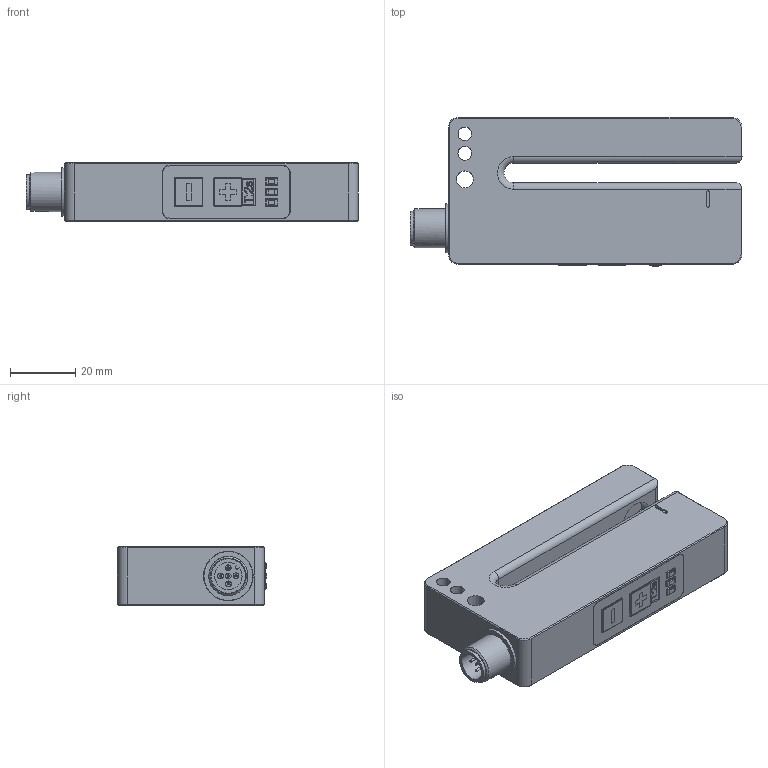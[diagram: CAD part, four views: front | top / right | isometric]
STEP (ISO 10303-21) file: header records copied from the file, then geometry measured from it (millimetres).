
FILE_DESCRIPTION( ( 'Unknown' ), '1' );
FILE_NAME( 'X:/SolidEdge/Models/Dokumentationen/Opto/di-soric/Vereinfachte Modelle/Neutralformate/UL06-xxxx.7xF.stp', 'Unknown', ( 'Unknown' ), ( 'Unknown' ), 'PSStep 19.0.9', 'Unknown', ' ' );
FILE_SCHEMA( ( 'AUTOMOTIVE_DESIGN { 1 0 10303 214 1 1 1 1 }' ) );
Length unit declared in the file: millimetre
Products named in the file (10): 3D-UGUTI6-70-G6-B5
Bounding box: 101.8 x 45.7 x 18 mm (x, y, z)
Volume: 61963.6 mm3; surface area: 18904.4 mm2
Topology: 10 solids, 18 shells, 577 faces, 1411 edges, 881 vertices
Faces by surface type: plane 314, cylinder 183, sphere 24, torus 22, bspline 19, cone 15
Full cylindrical faces by diameter (mm): 0.7 x5, 1.7 x6, 1.8 x4, 4.134 x1, 4.2 x1, 5.2 x1, 7.85 x1, 8.5 x1, 8.8 x1, 9.45 x1, 9.5 x1, 9.9 x1, 10 x1, 10.5 x1, 11.2 x2, 12 x1, 15 x1, 15.2 x1
Entity records: 21579 total; most frequent: CARTESIAN_POINT 3557, DIRECTION 2782, ORIENTED_EDGE 2638, EDGE_CURVE 1319, AXIS2_PLACEMENT_3D 965, VERTEX_POINT 857, LINE 852, VECTOR 852
